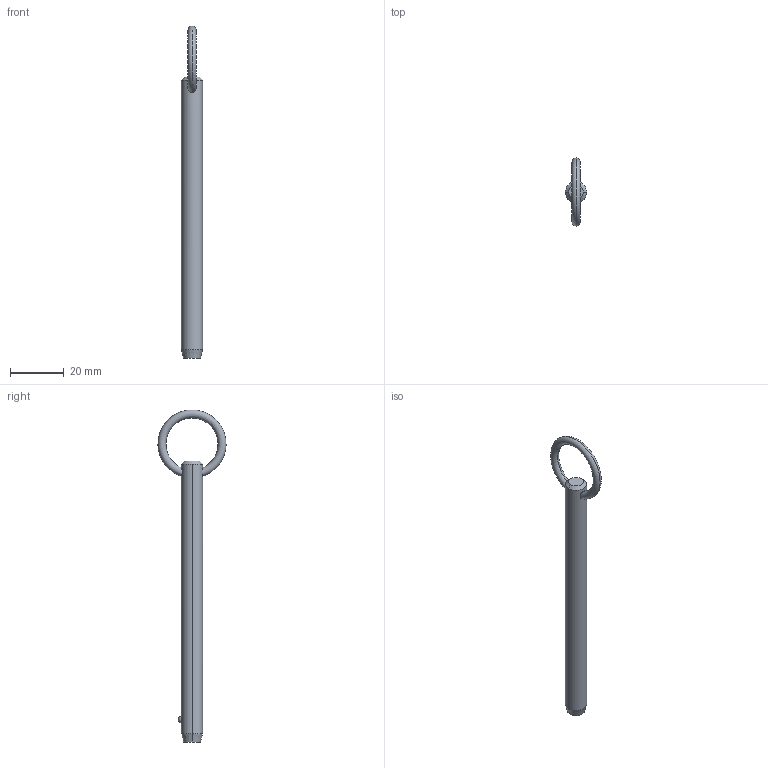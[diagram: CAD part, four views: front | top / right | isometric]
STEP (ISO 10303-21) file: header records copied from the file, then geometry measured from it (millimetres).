
FILE_DESCRIPTION (( 'STEP AP203' ), '1' );
FILE_NAME ('P1250.031-350.step', '2019-07-29T19:54:09', ( '' ), ( '' ), 'SwSTEP 2.0', 'SolidWorks 2017', '' );
FILE_SCHEMA (( 'CONFIG_CONTROL_DESIGN' ));
Length unit declared in the file: millimetre
Products named in the file (1): P1250.031-350
Bounding box: 7.93 x 25.36 x 123.81 mm (x, y, z)
Volume: 5575.1 mm3; surface area: 3245.5 mm2
Topology: 1 solids, 1 shells, 12 faces, 28 edges, 17 vertices
Faces by surface type: cone 4, torus 2, sphere 2, cylinder 2, plane 2
Entity records: 509 total; most frequent: CARTESIAN_POINT 176, DIRECTION 56, ORIENTED_EDGE 48, AXIS2_PLACEMENT_3D 25, EDGE_CURVE 24, VERTEX_POINT 15, EDGE_LOOP 15, CIRCLE 12
